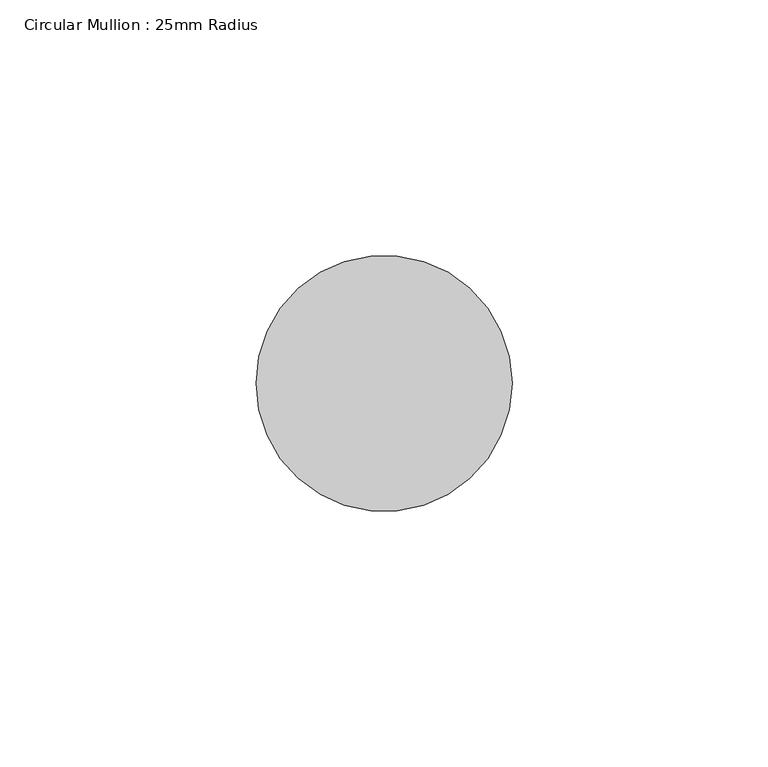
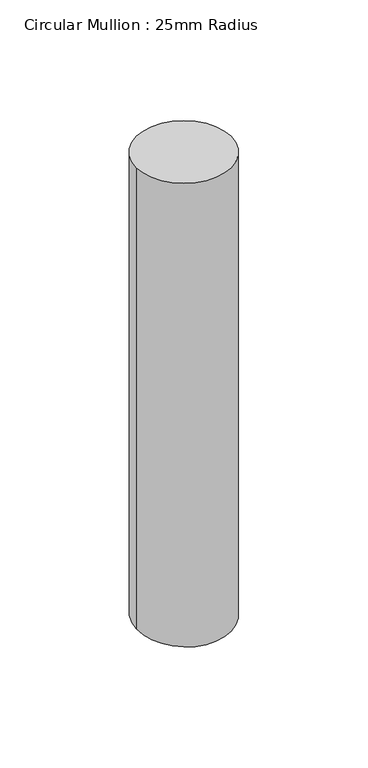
"""IFC4 building model written with IfcOpenShell, lengths in millimetres: member geometry, Circular Mullion : 25mm Radius."""

from ifc_helpers import new_model, si_unit, frame, origin, place, context, project, spatial, circle_curve, ellipse_curve, source, transform, mapped, element, save
from ifc_brep_helpers import plane_surface, cylinder_surface, advanced_brep


def circular_mullion_25mm_radius_713549ac(model_context):
    return source(origin(), model_context, "Body", "AdvancedBrep", [
        advanced_brep(
        [(0.0, 0.0, 0.0), (-50.0, 0.0, 0.0), (0.0, 0.0, -257.4810155), (-50.0, 0.0, -257.4810155)],
        [
            (0, 1, circle_curve(frame((-25.0, 0.0, 0.0), z_axis=(0.0, 0.0, 1.0), x_axis=(1.0, 0.0, 0.0)), 25.0)),
            (1, 0, circle_curve(frame((-25.0, 0.0, 0.0), z_axis=(0.0, 0.0, 1.0), x_axis=(1.0, 0.0, 0.0)), 25.0)),
            (0, 2),
            (2, 3, ellipse_curve(frame((-25.0, 0.0, -257.4810155), z_axis=(0.0, -0.06436439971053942, 0.9979264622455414), x_axis=(0.0, 0.9979264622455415, 0.06436439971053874)), 25.0519462, 25.0)),
            (3, 1),
            (3, 2, ellipse_curve(frame((-25.0, 0.0, -257.4810155), z_axis=(0.0, -0.06436439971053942, 0.9979264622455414), x_axis=(0.0, 0.9979264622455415, 0.06436439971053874)), 25.0519462, 25.0)),
        ],
        [
            plane_surface(frame((0.0, -50.0, 0.0), z_axis=(0.0, 0.0, 1.0), x_axis=(-1.0, 0.0, 0.0))),
            cylinder_surface(frame((-25.0, 0.0, 0.0), z_axis=(0.0, 0.0, 1.0), x_axis=(1.0, 0.0, 0.0)), 25.0),
            plane_surface(frame((-304.8, 0.0, -257.4810155), z_axis=(0.0, 0.06436439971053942, -0.9979264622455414), x_axis=(0.0, 0.9979264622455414, 0.06436439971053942))),
        ],
        [
            (0, [[1, 2]]),
            (1, [[-1, 3, 4, 5]]),
            (1, [[-2, -5, 6, -3]]),
            (2, [[-6, -4]]),
        ],
    ),
    ])


if __name__ == "__main__":
    model = new_model("IFC4")
    model_context = context("Model", 3, world=origin())
    ifc_project = project(units=[si_unit("LENGTHUNIT", "METRE", prefix="MILLI")], contexts=[model_context])
    site = spatial("IfcSite", under=ifc_project)
    building = spatial("IfcBuilding", under=site)
    placement = place(None, origin())
    circular_mullion_25mm_radius_shape = circular_mullion_25mm_radius_713549ac(model_context)
    element("IfcMember", 1, ObjectType="Circular Mullion : 25mm Radius", at=placement, inside=building, context=model_context, shape_type="MappedRepresentation", body=[
        mapped(circular_mullion_25mm_radius_shape, transform((0.0, 0.0, 0.0), x_axis=(1.0, 0.0, 0.0), y_axis=(0.0, 1.0, 0.0), z_axis=(0.0, 0.0, 1.0))),
    ])
    save(model, "model.ifc")
